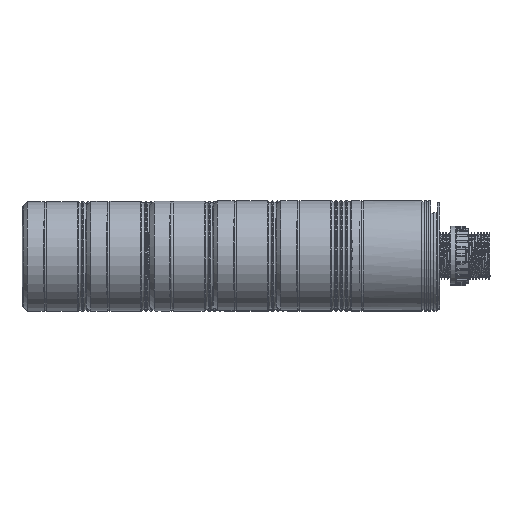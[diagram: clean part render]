
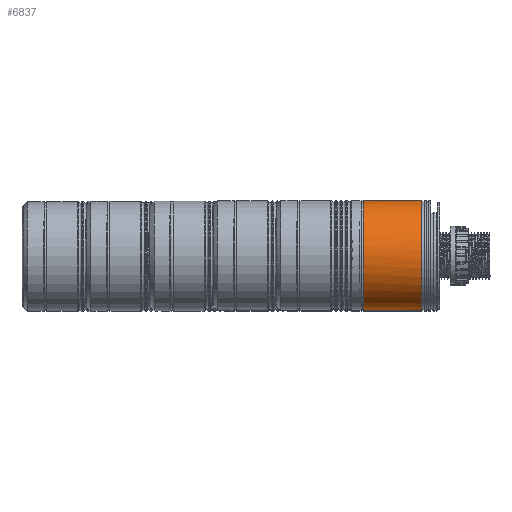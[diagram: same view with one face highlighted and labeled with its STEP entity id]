
A CAD part, top view. The second image highlights one B-rep face of the part: STEP entity #6837.
In plain terms, the highlighted cylindrical face has radius 26 mm (diameter 52 mm), a full revolution.
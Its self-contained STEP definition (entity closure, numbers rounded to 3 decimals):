
#5574=CYLINDRICAL_SURFACE('',#29218,26.);
#6837=ADVANCED_FACE('',(#8342,#8343),#5574,.T.);
#8342=FACE_BOUND('',#10229,.T.);
#8343=FACE_BOUND('',#10230,.T.);
#10229=EDGE_LOOP('',(#17370,#17371));
#10230=EDGE_LOOP('',(#17372,#17373,#17374));
#17370=ORIENTED_EDGE('',*,*,#25002,.T.);
#17371=ORIENTED_EDGE('',*,*,#25003,.T.);
#17372=ORIENTED_EDGE('',*,*,#24999,.T.);
#17373=ORIENTED_EDGE('',*,*,#24998,.T.);
#17374=ORIENTED_EDGE('',*,*,#24997,.T.);
#21200=VERTEX_POINT('',#84737);
#21201=VERTEX_POINT('',#84738);
#21202=VERTEX_POINT('',#84740);
#21205=VERTEX_POINT('',#84749);
#21206=VERTEX_POINT('',#84750);
#24997=EDGE_CURVE('',#21200,#21201,#26794,.T.);
#24998=EDGE_CURVE('',#21202,#21200,#26795,.T.);
#24999=EDGE_CURVE('',#21201,#21202,#26796,.T.);
#25002=EDGE_CURVE('',#21205,#21206,#26799,.T.);
#25003=EDGE_CURVE('',#21206,#21205,#26800,.T.);
#26794=CIRCLE('',#29209,26.);
#26795=CIRCLE('',#29210,26.);
#26796=CIRCLE('',#29211,26.);
#26799=CIRCLE('',#29216,26.);
#26800=CIRCLE('',#29217,26.);
#29209=AXIS2_PLACEMENT_3D('',#84736,#34397,#34398);
#29210=AXIS2_PLACEMENT_3D('',#84739,#34399,#34400);
#29211=AXIS2_PLACEMENT_3D('',#84741,#34401,#34402);
#29216=AXIS2_PLACEMENT_3D('',#84748,#34411,#34412);
#29217=AXIS2_PLACEMENT_3D('',#84751,#34413,#34414);
#29218=AXIS2_PLACEMENT_3D('',#84752,#34415,#34416);
#34397=DIRECTION('',(-1.,0.,0.));
#34398=DIRECTION('',(0.,1.,0.));
#34399=DIRECTION('',(-1.,0.,0.));
#34400=DIRECTION('',(0.,1.,0.));
#34401=DIRECTION('',(-1.,0.,0.));
#34402=DIRECTION('',(0.,1.,0.));
#34411=DIRECTION('',(1.,0.,0.));
#34412=DIRECTION('',(0.,1.,0.));
#34413=DIRECTION('',(1.,0.,0.));
#34414=DIRECTION('',(0.,1.,0.));
#34415=DIRECTION('',(1.,0.,0.));
#34416=DIRECTION('',(0.,-1.,0.));
#84736=CARTESIAN_POINT('',(114.332,77.966,292.391));
#84737=CARTESIAN_POINT('',(114.332,51.966,292.392));
#84738=CARTESIAN_POINT('',(114.332,76.077,318.323));
#84739=CARTESIAN_POINT('',(114.332,77.966,292.391));
#84740=CARTESIAN_POINT('',(114.332,76.077,266.46));
#84741=CARTESIAN_POINT('',(114.332,77.966,292.391));
#84748=CARTESIAN_POINT('',(86.732,77.966,292.391));
#84749=CARTESIAN_POINT('',(86.732,51.966,292.391));
#84750=CARTESIAN_POINT('',(86.732,103.966,292.391));
#84751=CARTESIAN_POINT('',(86.732,77.966,292.391));
#84752=CARTESIAN_POINT('',(117.932,77.966,292.391));
